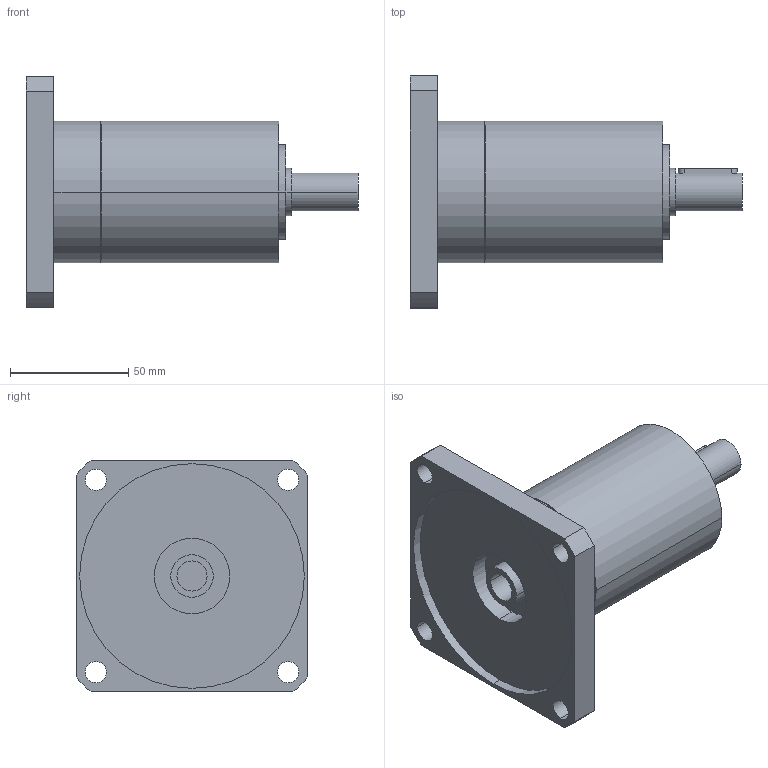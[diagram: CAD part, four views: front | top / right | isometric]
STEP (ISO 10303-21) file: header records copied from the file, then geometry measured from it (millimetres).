
FILE_DESCRIPTION(('CoCreate Modeling STEP Export'),'2;1');
FILE_NAME('GPR75_ig-9-12-16-20-24-30-36_16_B14_12.7_P08.stp','2014-08-25T16:02:18',(''),(''),'CoCreate Modeling STEP processor for AP214 (Solid Model)','CoCreate Modeling 16.00C 25-Feb-2009 (C) Parametric Technology GmbH','');
FILE_SCHEMA(('AUTOMOTIVE_DESIGN { 1 0 10303 214 1 1 1 1 }'));
Length unit declared in the file: millimetre
Products named in the file (2): GPR75_ig-9-12-16-20-24-30-36_16_B14_12.7_P08
Assembly tree (1 placements, depth 2):
  GPR75_ig-9-12-16-20-24-30-36_16_B14_12.7_P08
    GPR75_ig-9-12-16-20-24-30-36_16_B14_12.7_P08
Bounding box: 140.4 x 98 x 98 mm (x, y, z)
Volume: 349498.2 mm3; surface area: 48652.9 mm2
Topology: 1 solids, 1 shells, 70 faces, 186 edges, 130 vertices
Faces by surface type: cylinder 42, plane 22, cone 6
Entity records: 1929 total; most frequent: ORIENTED_EDGE 368, CARTESIAN_POINT 358, DIRECTION 262, EDGE_CURVE 184, VERTEX_POINT 130, AXIS2_PLACEMENT_3D 98, EDGE_LOOP 92, FACE_OUTER_BOUND 70
